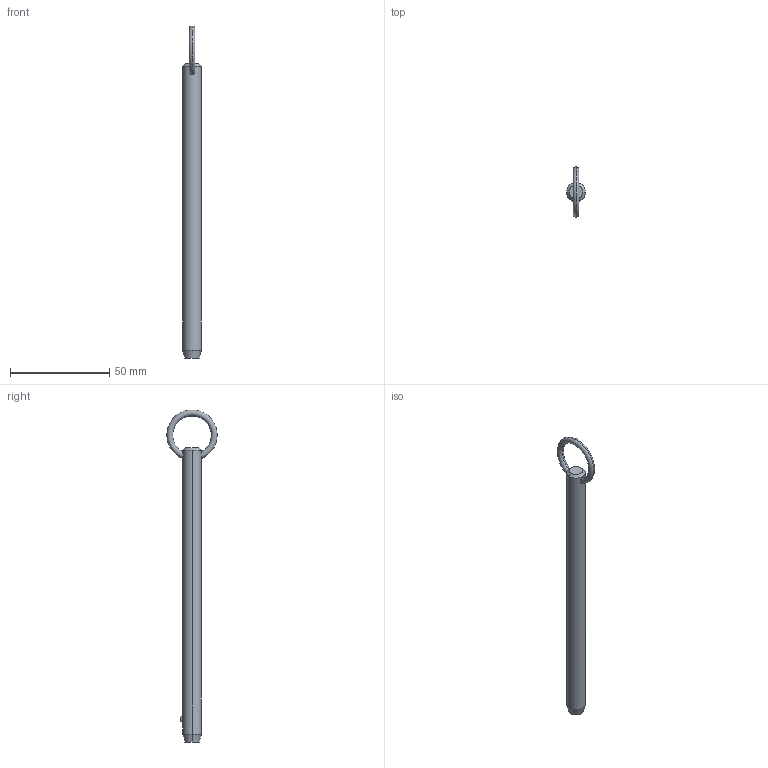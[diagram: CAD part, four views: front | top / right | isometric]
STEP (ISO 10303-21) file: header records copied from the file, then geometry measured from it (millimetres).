
FILE_DESCRIPTION (( 'STEP AP203' ), '1' );
FILE_NAME ('P1250.037-510.step', '2019-07-29T20:12:46', ( '' ), ( '' ), 'SwSTEP 2.0', 'SolidWorks 2017', '' );
FILE_SCHEMA (( 'CONFIG_CONTROL_DESIGN' ));
Length unit declared in the file: millimetre
Products named in the file (1): P1250.037-510
Bounding box: 9.52 x 25.39 x 167.6 mm (x, y, z)
Volume: 10925.1 mm3; surface area: 5085 mm2
Topology: 1 solids, 1 shells, 12 faces, 28 edges, 17 vertices
Faces by surface type: cone 4, torus 2, sphere 2, cylinder 2, plane 2
Entity records: 523 total; most frequent: CARTESIAN_POINT 190, DIRECTION 56, ORIENTED_EDGE 48, AXIS2_PLACEMENT_3D 25, EDGE_CURVE 24, VERTEX_POINT 15, EDGE_LOOP 15, ADVANCED_FACE 12
